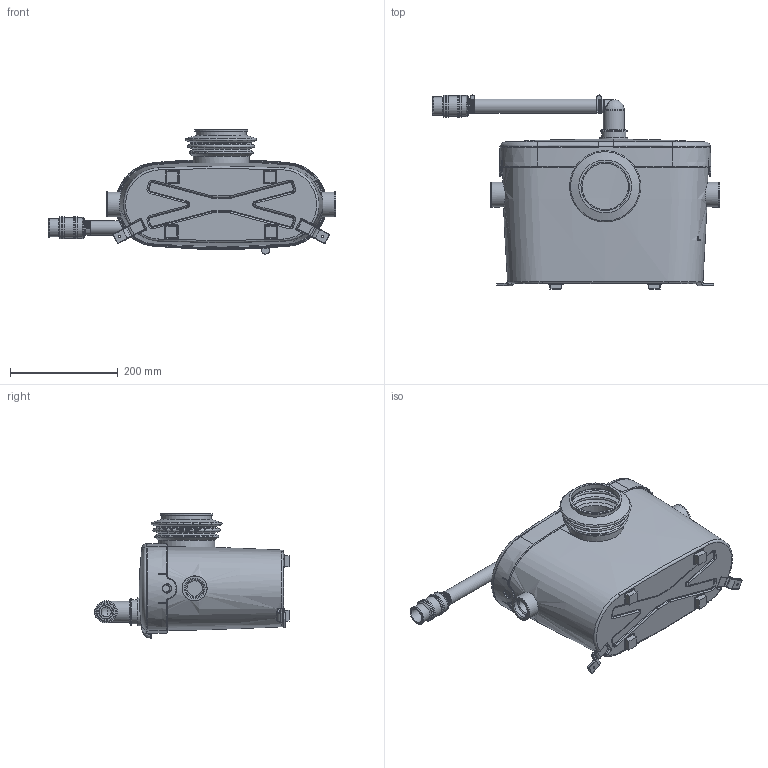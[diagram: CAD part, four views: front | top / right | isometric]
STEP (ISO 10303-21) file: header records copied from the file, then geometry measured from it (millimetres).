
FILE_DESCRIPTION (( 'STEP AP214' ), '1' );
FILE_NAME ('SANIACCES 2.STEP', '2017-03-13T14:56:37', ( 'VHUMBERT' ), ( '' ), 'SwSTEP 2.0', 'SolidWorks 2015', '' );
FILE_SCHEMA (( 'AUTOMOTIVE_DESIGN' ));
Length unit declared in the file: millimetre
Products named in the file (1): SANIACCES 2
Bounding box: 532.24 x 359.83 x 230.09 mm (x, y, z)
Volume: 944347.5 mm3; surface area: 898372 mm2
Topology: 1 solids, 1 shells, 1094 faces, 2663 edges, 1648 vertices
Faces by surface type: plane 399, cylinder 335, bspline 152, torus 130, cone 52, sphere 26
Full cylindrical faces by diameter (mm): 4 x2, 17 x2, 21 x1, 25.6 x1, 26.5 x3, 27.2 x2, 27.3 x1, 28.5 x2, 32 x1, 33.3 x1, 34.4 x1, 34.5 x2, 36 x1, 38 x4, 38.898 x1, 40.9 x2, 41 x4, 45 x2, 46 x2, 46.5 x2, 50 x1, 52 x1, 86 x1, 90 x1, 93 x1, 98 x1, 104.2 x2
Entity records: 57947 total; most frequent: CARTESIAN_POINT 22037, ORIENTED_EDGE 5024, DIRECTION 4663, EDGE_CURVE 2512, AXIS2_PLACEMENT_3D 1795, VERTEX_POINT 1616, EDGE_LOOP 1300, FACE_OUTER_BOUND 1161
